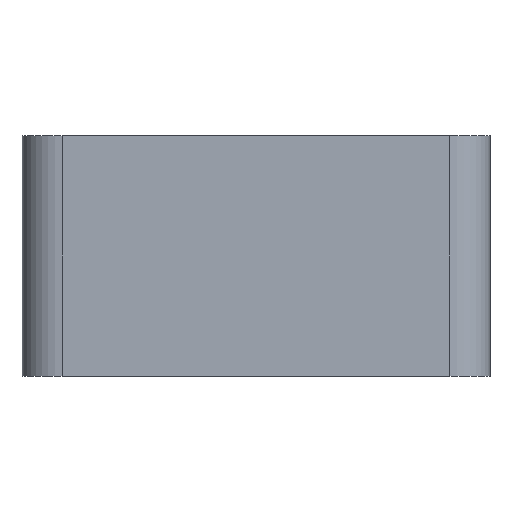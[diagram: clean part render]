
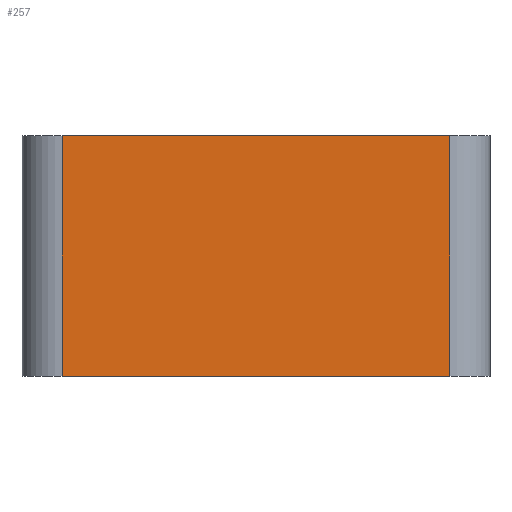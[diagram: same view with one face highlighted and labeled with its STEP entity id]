
A CAD part, front view. The second image highlights one B-rep face of the part: STEP entity #257.
In plain terms, the highlighted planar face has unit normal (0, -1, 0).
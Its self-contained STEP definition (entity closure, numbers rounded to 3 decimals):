
#193=FACE_OUTER_BOUND('',#855,.T.);
#257=ADVANCED_FACE('',(#193),#377,.T.);
#377=PLANE('',#2171);
#429=LINE('',#3114,#503);
#436=LINE('',#3140,#510);
#437=LINE('',#3142,#511);
#438=LINE('',#3144,#512);
#503=VECTOR('',#2395,1.);
#510=VECTOR('',#2412,1.);
#511=VECTOR('',#2413,1.);
#512=VECTOR('',#2414,1.);
#855=EDGE_LOOP('',(#1102,#1103,#1104,#1105));
#1102=ORIENTED_EDGE('',*,*,#1779,.T.);
#1103=ORIENTED_EDGE('',*,*,#1790,.T.);
#1104=ORIENTED_EDGE('',*,*,#1791,.T.);
#1105=ORIENTED_EDGE('',*,*,#1792,.T.);
#1589=VERTEX_POINT('',#3113);
#1590=VERTEX_POINT('',#3115);
#1600=VERTEX_POINT('',#3141);
#1601=VERTEX_POINT('',#3143);
#1779=EDGE_CURVE('',#1590,#1589,#429,.T.);
#1790=EDGE_CURVE('',#1589,#1600,#436,.T.);
#1791=EDGE_CURVE('',#1600,#1601,#437,.T.);
#1792=EDGE_CURVE('',#1601,#1590,#438,.T.);
#2171=AXIS2_PLACEMENT_3D('',#3145,#2415,#2416);
#2395=DIRECTION('',(-1.,0.,0.));
#2412=DIRECTION('',(0.,0.,-1.));
#2413=DIRECTION('',(1.,0.,0.));
#2414=DIRECTION('',(0.,0.,1.));
#2415=DIRECTION('',(0.,-1.,0.));
#2416=DIRECTION('',(0.,0.,-1.));
#3113=CARTESIAN_POINT('',(3.,0.,18.));
#3114=CARTESIAN_POINT('',(17.5,0.,18.));
#3115=CARTESIAN_POINT('',(32.,0.,18.));
#3140=CARTESIAN_POINT('',(3.,0.,0.));
#3141=CARTESIAN_POINT('',(3.,0.,0.));
#3142=CARTESIAN_POINT('',(17.5,0.,0.));
#3143=CARTESIAN_POINT('',(32.,0.,0.));
#3144=CARTESIAN_POINT('',(32.,0.,0.));
#3145=CARTESIAN_POINT('',(17.5,0.,0.));
